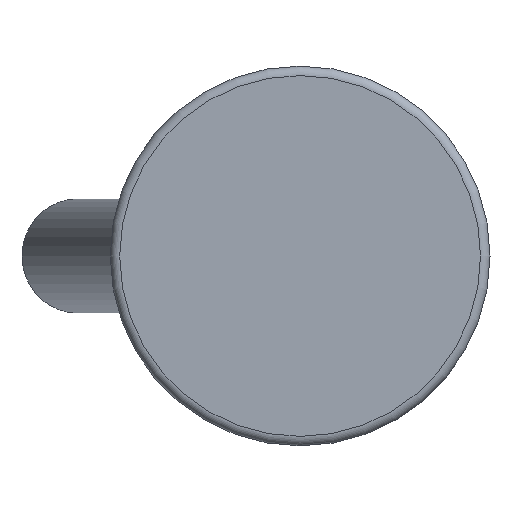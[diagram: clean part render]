
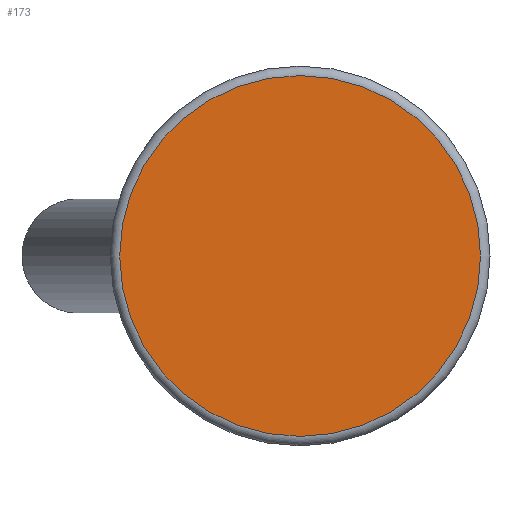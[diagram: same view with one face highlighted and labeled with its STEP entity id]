
A CAD part, front view. The second image highlights one B-rep face of the part: STEP entity #173.
In plain terms, the highlighted planar face has unit normal (0, -1, 0).
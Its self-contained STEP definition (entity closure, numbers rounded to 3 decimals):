
#173 = ADVANCED_FACE( '', ( #348 ), #349, .F. );
#348 = FACE_OUTER_BOUND( '', #548, .T. );
#349 = PLANE( '', #549 );
#548 = EDGE_LOOP( '', ( #807 ) );
#549 = AXIS2_PLACEMENT_3D( '', #808, #809, #810 );
#807 = ORIENTED_EDGE( '', *, *, #1175, .T. );
#808 = CARTESIAN_POINT( '', ( 19., 0., 0. ) );
#809 = DIRECTION( '', ( 0., 1., 0. ) );
#810 = DIRECTION( '', ( 0., 0., 1. ) );
#1175 = EDGE_CURVE( '', #1371, #1371, #1372, .T. );
#1371 = VERTEX_POINT( '', #1713 );
#1372 = CIRCLE( '', #1714, 19. );
#1713 = CARTESIAN_POINT( '', ( 0., 0., -19. ) );
#1714 = AXIS2_PLACEMENT_3D( '', #2064, #2065, #2066 );
#2064 = CARTESIAN_POINT( '', ( 0., 0., 0. ) );
#2065 = DIRECTION( '', ( 0., -1., 0. ) );
#2066 = DIRECTION( '', ( 0., 0., -1. ) );
